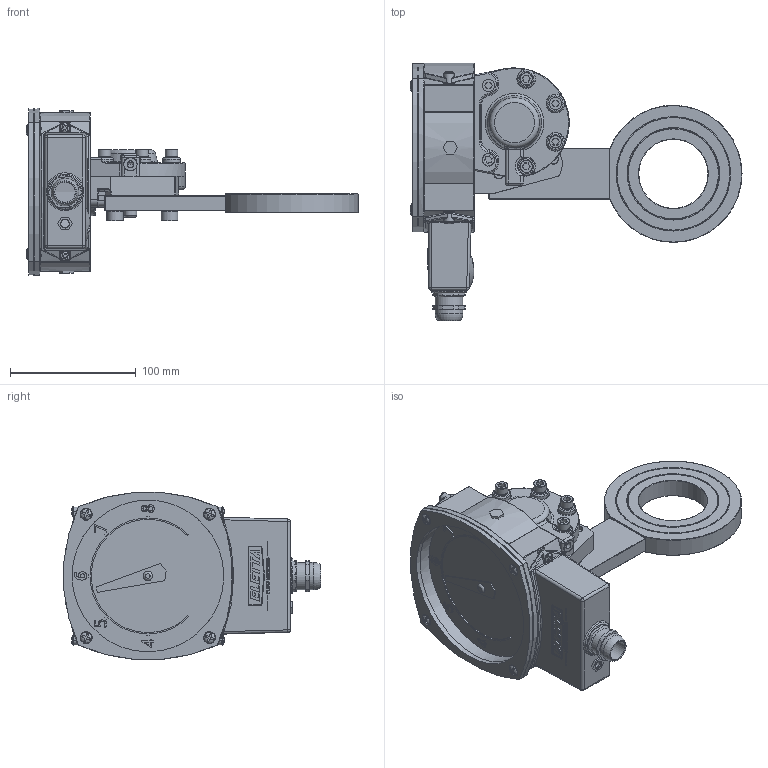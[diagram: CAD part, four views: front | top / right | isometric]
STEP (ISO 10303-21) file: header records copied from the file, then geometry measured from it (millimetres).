
FILE_DESCRIPTION(/* description */ ('Alibre Inc.'),/* implementation_level */ '2;1');
FILE_NAME(/* name */ 'export0',/* time_stamp */ '2012-10-19T10:54:16+02:00',/* author */ (''),/* organization */ (''),/* preprocessor_version */ 'ST-DEVELOPER v14',/* originating_system */ 'Alibre',/* authorisation */ '');
FILE_SCHEMA (('CONFIG_CONTROL_DESIGN'));
Length unit declared in the file: centimetre
Products named in the file (19): ID_1; ID_2; ID_3; ID_4; ID_5; ID_6; ID_7; ID_8; ID_9; ID_10; ID_11; ID_12; ID_13; ID_14
Bounding box: 263.78 x 204.33 x 132.76 mm (x, y, z)
Volume: 570734.2 mm3; surface area: 240324.2 mm2
Topology: 31 solids, 31 shells, 1723 faces, 4150 edges, 2558 vertices
Faces by surface type: plane 766, bspline 365, cylinder 322, torus 158, cone 86, sphere 26
Full cylindrical faces by diameter (mm): 3.9 x2, 5 x18, 5.2 x2, 5.5 x5, 5.541 x2, 6 x28, 6.35 x2, 6.5 x7, 8 x7, 8.5 x2, 9.6 x6, 10 x11, 10.5 x1, 12 x3, 13 x2, 14 x3, 16 x1, 19.5 x1, 22 x2, 22.5 x4, 25 x1, 29 x1, 31 x1, 55 x1, 72 x2, 73 x2, 90 x2, 91 x2, 120.5 x3, 123.4 x1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
Entity records: 60556 total; most frequent: CARTESIAN_POINT 28551, ORIENTED_EDGE 6474, DIRECTION 4845, EDGE_CURVE 3237, VERTEX_POINT 2118, AXIS2_PLACEMENT_3D 2016, EDGE_LOOP 1787, FACE_BOUND 1787
